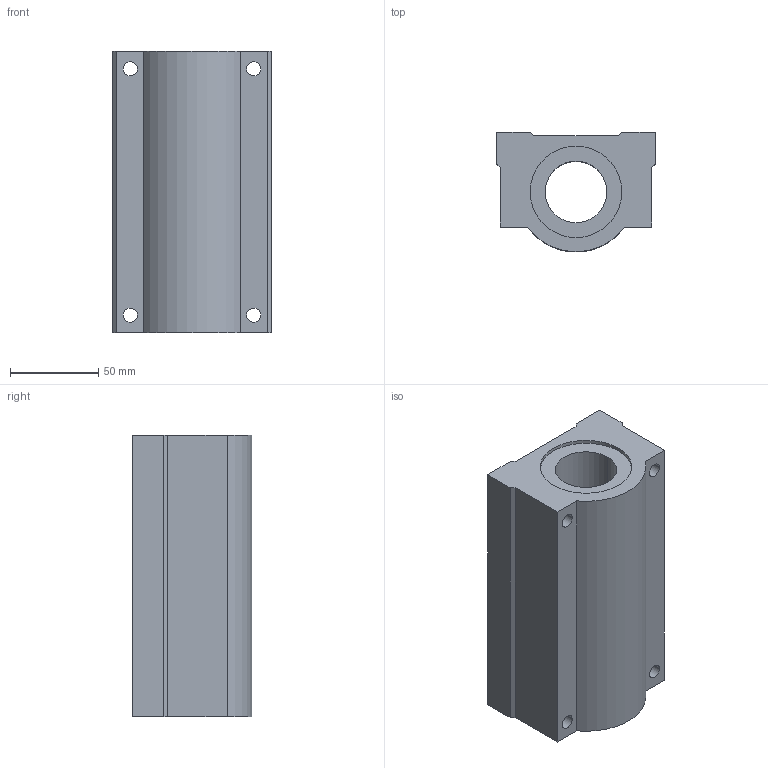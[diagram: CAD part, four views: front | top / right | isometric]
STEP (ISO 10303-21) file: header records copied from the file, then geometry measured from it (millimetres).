
FILE_DESCRIPTION((''),'2;1');
FILE_NAME('C:\Documents and Settings\ｿﾀﾀ蠑ｷ1\ｹﾙﾅﾁ ﾈｭｸ饅\ｺﾎﾇｰﾆﾄﾀﾏ\ﾁｦﾇｰ\SC__WUU\SC35WUU.stp','2005-06-22T15:25:09',('ｿﾀﾀ蠑ｷ1'),(''),'Autodesk Inventor 9','Autodesk Inventor 9','');
FILE_SCHEMA(('AUTOMOTIVE_DESIGN { 1 0 10303 214 1 1 1 1 }'));
Length unit declared in the file: millimetre
Products named in the file (1): SC__UU
Bounding box: 90 x 67.88 x 160 mm (x, y, z)
Volume: 655991.6 mm3; surface area: 78645.7 mm2
Topology: 1 solids, 1 shells, 32 faces, 84 edges, 56 vertices
Faces by surface type: plane 17, bspline 8, cylinder 7
Entity records: 1145 total; most frequent: CARTESIAN_POINT 309, ORIENTED_EDGE 168, DIRECTION 164, EDGE_CURVE 84, VERTEX_POINT 56, AXIS2_PLACEMENT_3D 55, VECTOR 54, LINE 54
